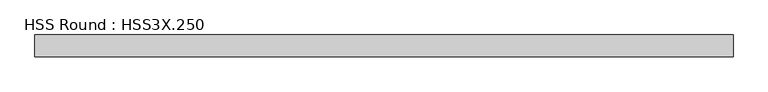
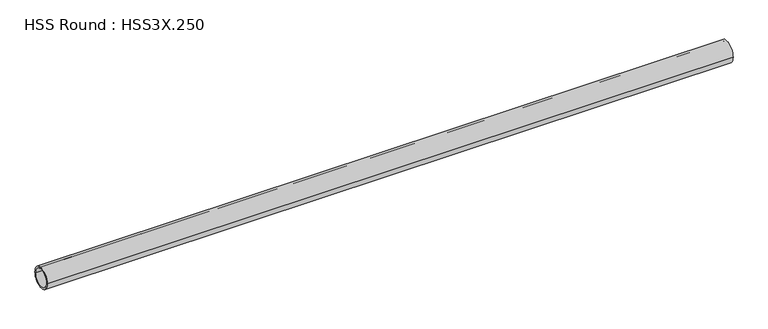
"""IFC4 building model written with IfcOpenShell, lengths in millimetres: member geometry, HSS Round : HSS3X.250."""

from ifc_helpers import new_model, si_unit, point, frame, origin, origin_2d, place, context, project, spatial, circle_curve, trimmed, segment, composite_curve, outline, extrude, source, transform, mapped, element, save


def hss_round_hss3x_250_178958f6(model_context):
    return source(origin(), model_context, "Body", "SweptSolid", [
        extrude(outline(composite_curve([segment(trimmed(circle_curve(origin_2d(), 38.1), [point((-38.1, 0.0))], [point((38.1, 0.0))], False, "CARTESIAN"), True, "CONTINUOUS"), segment(trimmed(circle_curve(origin_2d(), 38.1), [point((38.1, 0.0))], [point((-38.1, 0.0))], False, "CARTESIAN"), True, "CONTINUOUS")], self_intersect=False), holes=[composite_curve([segment(trimmed(circle_curve(origin_2d(), 31.75), [point((31.75, 0.0))], [point((-31.75, 0.0))], True, "CARTESIAN"), True, "CONTINUOUS"), segment(trimmed(circle_curve(origin_2d(), 31.75), [point((-31.75, 0.0))], [point((31.75, 0.0))], True, "CARTESIAN"), True, "CONTINUOUS")], self_intersect=False)]), frame((-1193.5228915, 0.0, 0.0), z_axis=(1.0, 0.0, 0.0), x_axis=(0.0, 1.0, 0.0)), (0.0, 0.0, 1.0), 2452.3989303),
    ])


if __name__ == "__main__":
    model = new_model("IFC4")
    model_context = context("Model", 3, world=origin())
    ifc_project = project(units=[si_unit("LENGTHUNIT", "METRE", prefix="MILLI")], contexts=[model_context])
    site = spatial("IfcSite", under=ifc_project)
    building = spatial("IfcBuilding", under=site)
    placement = place(None, origin())
    hss_round_hss3x_250_shape = hss_round_hss3x_250_178958f6(model_context)
    element("IfcMember", 1, ObjectType="HSS Round : HSS3X.250", at=placement, inside=building, context=model_context, shape_type="MappedRepresentation", body=[
        mapped(hss_round_hss3x_250_shape, transform((0.0, 0.0, 0.0), x_axis=(1.0, 0.0, 0.0), y_axis=(0.0, 1.0, 0.0), z_axis=(0.0, 0.0, 1.0))),
    ])
    save(model, "model.ifc")
